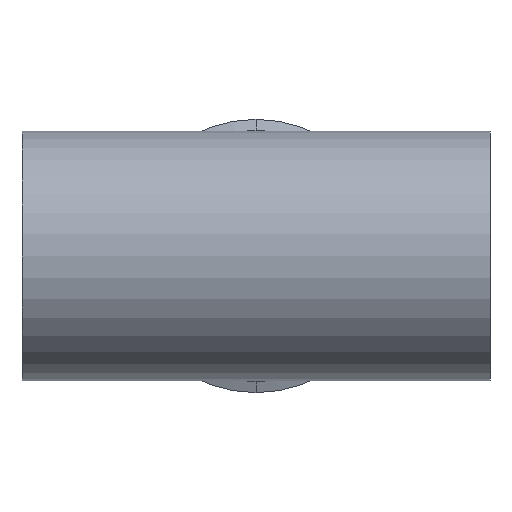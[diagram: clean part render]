
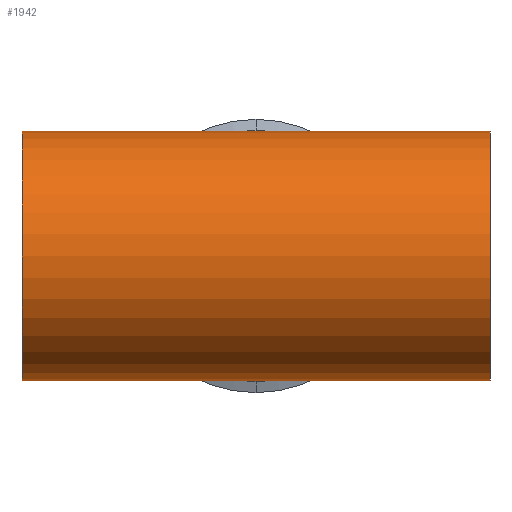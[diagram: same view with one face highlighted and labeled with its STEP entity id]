
A CAD part, front view. The second image highlights one B-rep face of the part: STEP entity #1942.
In plain terms, the highlighted cylindrical face has radius 76.2 mm (diameter 152.4 mm), a partial arc.
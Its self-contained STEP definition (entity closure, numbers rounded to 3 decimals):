
#83 = VECTOR ( 'NONE', #1947, 1000. ) ;
#95 = VERTEX_POINT ( 'NONE', #422 ) ;
#167 = VECTOR ( 'NONE', #349, 1000. ) ;
#217 = EDGE_CURVE ( 'NONE', #2013, #1428, #1003, .T. ) ;
#294 = EDGE_CURVE ( 'NONE', #1760, #983, #814, .T. ) ;
#295 = CARTESIAN_POINT ( 'NONE',  ( -142.9, 0., 76.2 ) ) ;
#349 = DIRECTION ( 'NONE',  ( 1., 0., 0. ) ) ;
#406 = CIRCLE ( 'NONE', #1349, 76.2 ) ;
#416 = DIRECTION ( 'NONE',  ( 0., 0., -1. ) ) ;
#422 = CARTESIAN_POINT ( 'NONE',  ( 142.9, 0., -76.2 ) ) ;
#453 = CARTESIAN_POINT ( 'NONE',  ( 0., 0., 76.2 ) ) ;
#547 = CARTESIAN_POINT ( 'NONE',  ( 142.9, 0., 0. ) ) ;
#575 = CARTESIAN_POINT ( 'NONE',  ( -142.9, 0., 76.2 ) ) ;
#648 = CARTESIAN_POINT ( 'NONE',  ( -142.9, 0., 76.2 ) ) ;
#654 = CARTESIAN_POINT ( 'NONE',  ( 0., 0., -76.2 ) ) ;
#720 = DIRECTION ( 'NONE',  ( 0., 0., -1. ) ) ;
#740 = CARTESIAN_POINT ( 'NONE',  ( -142.9, 0., -76.2 ) ) ;
#766 = CARTESIAN_POINT ( 'NONE',  ( -142.9, 0., 0. ) ) ;
#774 = EDGE_CURVE ( 'NONE', #1211, #1760, #1590, .T. ) ;
#777 = DIRECTION ( 'NONE',  ( 0., 0., -1. ) ) ;
#800 = DIRECTION ( 'NONE',  ( 1., 0., 0. ) ) ;
#814 = LINE ( 'NONE', #740, #926 ) ;
#849 = LINE ( 'NONE', #295, #167 ) ;
#907 = ORIENTED_EDGE ( 'NONE', *, *, #1023, .F. ) ;
#926 = VECTOR ( 'NONE', #800, 1000. ) ;
#931 = ORIENTED_EDGE ( 'NONE', *, *, #774, .T. ) ;
#932 = ORIENTED_EDGE ( 'NONE', *, *, #294, .T. ) ;
#954 = ORIENTED_EDGE ( 'NONE', *, *, #1469, .T. ) ;
#976 = VECTOR ( 'NONE', #1288, 1000. ) ;
#983 = VERTEX_POINT ( 'NONE', #654 ) ;
#988 = ORIENTED_EDGE ( 'NONE', *, *, #1704, .T. ) ;
#1003 = LINE ( 'NONE', #648, #976 ) ;
#1015 = ORIENTED_EDGE ( 'NONE', *, *, #217, .F. ) ;
#1023 = EDGE_CURVE ( 'NONE', #1211, #2013, #849, .T. ) ;
#1211 = VERTEX_POINT ( 'NONE', #575 ) ;
#1254 = CARTESIAN_POINT ( 'NONE',  ( 142.9, 0., 76.2 ) ) ;
#1288 = DIRECTION ( 'NONE',  ( 1., 0., 0. ) ) ;
#1349 = AXIS2_PLACEMENT_3D ( 'NONE', #547, #1767, #720 ) ;
#1428 = VERTEX_POINT ( 'NONE', #1254 ) ;
#1456 = CYLINDRICAL_SURFACE ( 'NONE', #2203, 76.2 ) ;
#1469 = EDGE_CURVE ( 'NONE', #983, #95, #1926, .T. ) ;
#1590 = CIRCLE ( 'NONE', #2066, 76.2 ) ;
#1634 = DIRECTION ( 'NONE',  ( 1., 0., 0. ) ) ;
#1704 = EDGE_CURVE ( 'NONE', #95, #1428, #406, .T. ) ;
#1760 = VERTEX_POINT ( 'NONE', #2116 ) ;
#1767 = DIRECTION ( 'NONE',  ( -1., 0., 0. ) ) ;
#1889 = CARTESIAN_POINT ( 'NONE',  ( -142.9, 0., -76.2 ) ) ;
#1926 = LINE ( 'NONE', #1889, #83 ) ;
#1942 = ADVANCED_FACE ( 'NONE', ( #2044 ), #1456, .T. ) ;
#1947 = DIRECTION ( 'NONE',  ( 1., 0., 0. ) ) ;
#2013 = VERTEX_POINT ( 'NONE', #453 ) ;
#2044 = FACE_OUTER_BOUND ( 'NONE', #2127, .T. ) ;
#2066 = AXIS2_PLACEMENT_3D ( 'NONE', #2279, #2291, #777 ) ;
#2116 = CARTESIAN_POINT ( 'NONE',  ( -142.9, 0., -76.2 ) ) ;
#2127 = EDGE_LOOP ( 'NONE', ( #907, #931, #932, #954, #988, #1015 ) ) ;
#2203 = AXIS2_PLACEMENT_3D ( 'NONE', #766, #1634, #416 ) ;
#2279 = CARTESIAN_POINT ( 'NONE',  ( -142.9, 0., 0. ) ) ;
#2291 = DIRECTION ( 'NONE',  ( 1., 0., 0. ) ) ;
